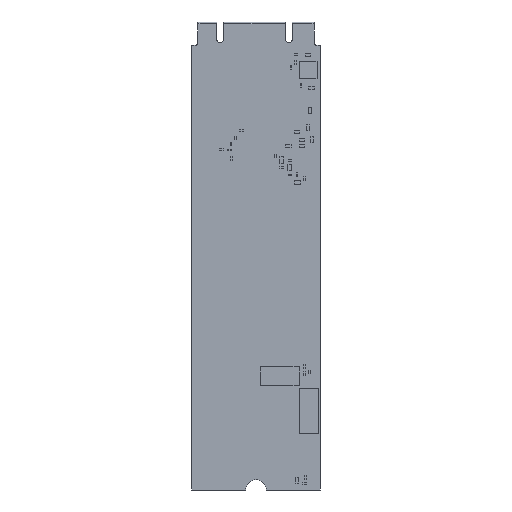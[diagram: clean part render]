
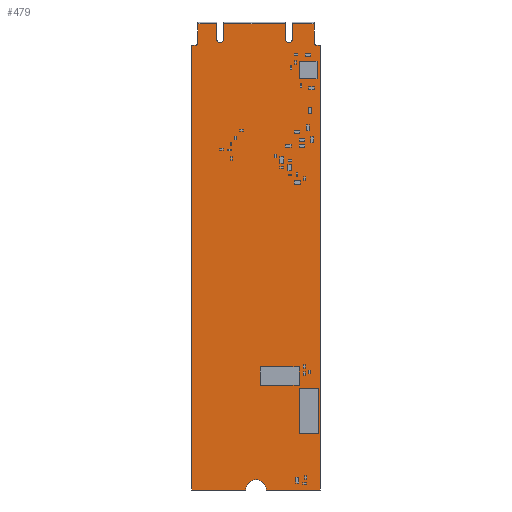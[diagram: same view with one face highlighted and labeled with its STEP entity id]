
A CAD part, front view. The second image highlights one B-rep face of the part: STEP entity #479.
In plain terms, the highlighted planar face has unit normal (0, -1, 0).
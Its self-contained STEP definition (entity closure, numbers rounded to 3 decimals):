
#6=DIRECTION('',(1.,0.,0.));
#7=VECTOR('',#6,3.2);
#8=CARTESIAN_POINT('',(-9.925,0.,-0.3));
#9=LINE('',#8,#7);
#10=DIRECTION('',(0.,0.,-1.));
#11=VECTOR('',#10,2.6);
#12=CARTESIAN_POINT('',(-6.725,0.,-0.3));
#13=LINE('',#12,#11);
#14=CARTESIAN_POINT('',(-6.125,0.,-2.9));
#15=DIRECTION('',(0.,1.,0.));
#16=DIRECTION('',(1.,0.,0.));
#17=AXIS2_PLACEMENT_3D('',#14,#15,#16);
#19=DIRECTION('',(0.,0.,-1.));
#20=VECTOR('',#19,2.6);
#21=CARTESIAN_POINT('',(-5.525,0.,-0.3));
#22=LINE('',#21,#20);
#23=DIRECTION('',(1.,0.,0.));
#24=VECTOR('',#23,10.55);
#25=CARTESIAN_POINT('',(-5.525,0.,-0.3));
#26=LINE('',#25,#24);
#27=DIRECTION('',(0.,0.,-1.));
#28=VECTOR('',#27,2.6);
#29=CARTESIAN_POINT('',(5.025,0.,-0.3));
#30=LINE('',#29,#28);
#31=CARTESIAN_POINT('',(5.625,0.,-2.9));
#32=DIRECTION('',(0.,1.,0.));
#33=DIRECTION('',(1.,0.,0.));
#34=AXIS2_PLACEMENT_3D('',#31,#32,#33);
#36=DIRECTION('',(0.,0.,-1.));
#37=VECTOR('',#36,2.6);
#38=CARTESIAN_POINT('',(6.225,0.,-0.3));
#39=LINE('',#38,#37);
#40=DIRECTION('',(1.,0.,0.));
#41=VECTOR('',#40,3.7);
#42=CARTESIAN_POINT('',(6.225,0.,-0.3));
#43=LINE('',#42,#41);
#44=DIRECTION('',(0.,0.,-1.));
#45=VECTOR('',#44,3.2);
#46=CARTESIAN_POINT('',(9.925,0.,-0.3));
#47=LINE('',#46,#45);
#48=DIRECTION('',(-1.,0.,0.));
#49=VECTOR('',#48,0.575);
#50=CARTESIAN_POINT('',(11.,0.,-4.));
#51=LINE('',#50,#49);
#52=DIRECTION('',(0.,0.,-1.));
#53=VECTOR('',#52,76.);
#54=CARTESIAN_POINT('',(11.,0.,-4.));
#55=LINE('',#54,#53);
#56=DIRECTION('',(-1.,0.,0.));
#57=VECTOR('',#56,9.25);
#58=CARTESIAN_POINT('',(11.,0.,-80.));
#59=LINE('',#58,#57);
#60=CARTESIAN_POINT('',(0.,0.,-80.));
#61=DIRECTION('',(0.,1.,0.));
#62=DIRECTION('',(-1.,0.,0.));
#63=AXIS2_PLACEMENT_3D('',#60,#61,#62);
#65=DIRECTION('',(-1.,0.,0.));
#66=VECTOR('',#65,9.25);
#67=CARTESIAN_POINT('',(-1.75,0.,-80.));
#68=LINE('',#67,#66);
#69=DIRECTION('',(0.,0.,1.));
#70=VECTOR('',#69,76.);
#71=CARTESIAN_POINT('',(-11.,0.,-80.));
#72=LINE('',#71,#70);
#73=DIRECTION('',(1.,0.,0.));
#74=VECTOR('',#73,0.575);
#75=CARTESIAN_POINT('',(-11.,0.,-4.));
#76=LINE('',#75,#74);
#77=DIRECTION('',(0.,0.,-1.));
#78=VECTOR('',#77,3.2);
#79=CARTESIAN_POINT('',(-9.925,0.,-0.3));
#80=LINE('',#79,#78);
#102=CARTESIAN_POINT('',(-10.425,0.,-3.5));
#103=DIRECTION('',(0.,1.,0.));
#104=DIRECTION('',(1.,0.,0.));
#105=AXIS2_PLACEMENT_3D('',#102,#103,#104);
#319=CARTESIAN_POINT('',(10.425,0.,-3.5));
#320=DIRECTION('',(0.,1.,0.));
#321=DIRECTION('',(0.,0.,-1.));
#322=AXIS2_PLACEMENT_3D('',#319,#320,#321);
#328=CARTESIAN_POINT('',(11.,0.,-80.));
#330=VERTEX_POINT('',#328);
#332=CARTESIAN_POINT('',(-11.,0.,-80.));
#334=VERTEX_POINT('',#332);
#336=CARTESIAN_POINT('',(11.,0.,-4.));
#338=VERTEX_POINT('',#336);
#340=CARTESIAN_POINT('',(-11.,0.,-4.));
#342=VERTEX_POINT('',#340);
#344=CARTESIAN_POINT('',(6.225,0.,-2.9));
#345=CARTESIAN_POINT('',(5.025,0.,-2.9));
#346=VERTEX_POINT('',#344);
#347=VERTEX_POINT('',#345);
#353=CARTESIAN_POINT('',(9.925,0.,-3.5));
#355=VERTEX_POINT('',#353);
#357=CARTESIAN_POINT('',(10.425,0.,-4.));
#359=VERTEX_POINT('',#357);
#361=CARTESIAN_POINT('',(-10.425,0.,-4.));
#363=VERTEX_POINT('',#361);
#365=CARTESIAN_POINT('',(-9.925,0.,-3.5));
#367=VERTEX_POINT('',#365);
#368=CARTESIAN_POINT('',(-9.925,0.,-0.3));
#369=CARTESIAN_POINT('',(-6.725,0.,-0.3));
#370=VERTEX_POINT('',#368);
#371=VERTEX_POINT('',#369);
#372=CARTESIAN_POINT('',(-5.525,0.,-0.3));
#373=CARTESIAN_POINT('',(5.025,0.,-0.3));
#374=VERTEX_POINT('',#372);
#375=VERTEX_POINT('',#373);
#400=CARTESIAN_POINT('',(9.925,0.,-0.3));
#402=VERTEX_POINT('',#400);
#408=CARTESIAN_POINT('',(6.225,0.,-0.3));
#410=VERTEX_POINT('',#408);
#416=CARTESIAN_POINT('',(-1.75,0.,-80.));
#417=CARTESIAN_POINT('',(1.75,0.,-80.));
#418=VERTEX_POINT('',#416);
#419=VERTEX_POINT('',#417);
#424=CARTESIAN_POINT('',(-5.525,0.,-2.9));
#425=CARTESIAN_POINT('',(-6.725,0.,-2.9));
#426=VERTEX_POINT('',#424);
#427=VERTEX_POINT('',#425);
#432=CARTESIAN_POINT('',(0.,0.,0.));
#433=DIRECTION('',(0.,1.,0.));
#434=DIRECTION('',(1.,0.,0.));
#435=AXIS2_PLACEMENT_3D('',#432,#433,#434);
#436=PLANE('',#435);
#438=ORIENTED_EDGE('',*,*,#437,.T.);
#440=ORIENTED_EDGE('',*,*,#439,.T.);
#442=ORIENTED_EDGE('',*,*,#441,.F.);
#444=ORIENTED_EDGE('',*,*,#443,.F.);
#446=ORIENTED_EDGE('',*,*,#445,.T.);
#448=ORIENTED_EDGE('',*,*,#447,.T.);
#450=ORIENTED_EDGE('',*,*,#449,.F.);
#452=ORIENTED_EDGE('',*,*,#451,.F.);
#454=ORIENTED_EDGE('',*,*,#453,.T.);
#456=ORIENTED_EDGE('',*,*,#455,.T.);
#458=ORIENTED_EDGE('',*,*,#457,.F.);
#460=ORIENTED_EDGE('',*,*,#459,.F.);
#462=ORIENTED_EDGE('',*,*,#461,.T.);
#464=ORIENTED_EDGE('',*,*,#463,.T.);
#466=ORIENTED_EDGE('',*,*,#465,.F.);
#468=ORIENTED_EDGE('',*,*,#467,.T.);
#470=ORIENTED_EDGE('',*,*,#469,.T.);
#472=ORIENTED_EDGE('',*,*,#471,.T.);
#474=ORIENTED_EDGE('',*,*,#473,.F.);
#476=ORIENTED_EDGE('',*,*,#475,.F.);
#477=EDGE_LOOP('',(#438,#440,#442,#444,#446,#448,#450,#452,#454,#456,#458,#460,
#462,#464,#466,#468,#470,#472,#474,#476));
#478=FACE_OUTER_BOUND('',#477,.F.);
#18=CIRCLE('',#17,0.6);
#35=CIRCLE('',#34,0.6);
#64=CIRCLE('',#63,1.75);
#106=CIRCLE('',#105,0.5);
#323=CIRCLE('',#322,0.5);
#437=EDGE_CURVE('',#370,#371,#9,.T.);
#439=EDGE_CURVE('',#371,#427,#13,.T.);
#441=EDGE_CURVE('',#426,#427,#18,.T.);
#443=EDGE_CURVE('',#374,#426,#22,.T.);
#445=EDGE_CURVE('',#374,#375,#26,.T.);
#447=EDGE_CURVE('',#375,#347,#30,.T.);
#449=EDGE_CURVE('',#346,#347,#35,.T.);
#451=EDGE_CURVE('',#410,#346,#39,.T.);
#453=EDGE_CURVE('',#410,#402,#43,.T.);
#455=EDGE_CURVE('',#402,#355,#47,.T.);
#457=EDGE_CURVE('',#359,#355,#323,.T.);
#459=EDGE_CURVE('',#338,#359,#51,.T.);
#461=EDGE_CURVE('',#338,#330,#55,.T.);
#463=EDGE_CURVE('',#330,#419,#59,.T.);
#465=EDGE_CURVE('',#418,#419,#64,.T.);
#467=EDGE_CURVE('',#418,#334,#68,.T.);
#469=EDGE_CURVE('',#334,#342,#72,.T.);
#471=EDGE_CURVE('',#342,#363,#76,.T.);
#473=EDGE_CURVE('',#367,#363,#106,.T.);
#475=EDGE_CURVE('',#370,#367,#80,.T.);
#479=ADVANCED_FACE('',(#478),#436,.F.);
